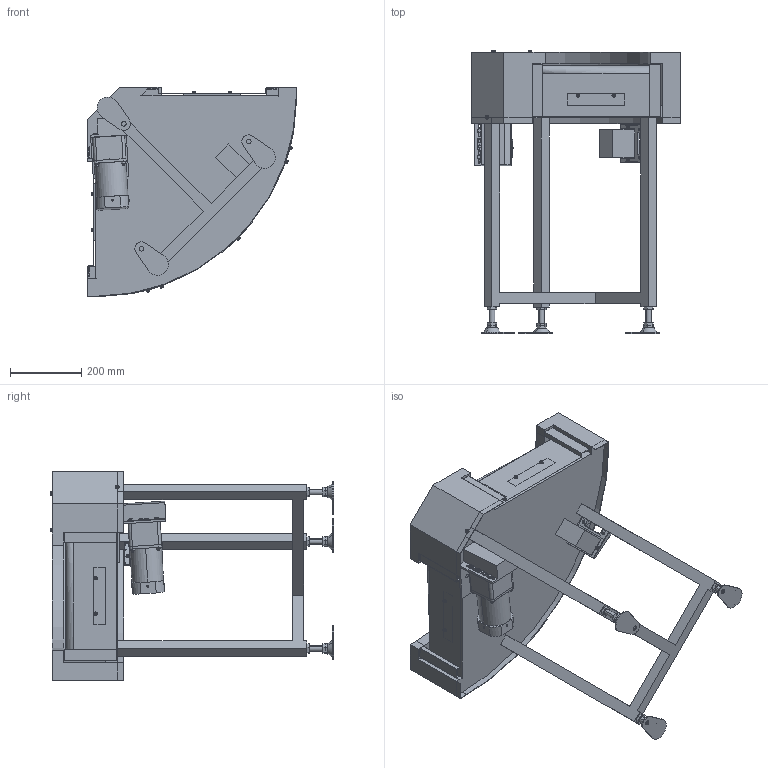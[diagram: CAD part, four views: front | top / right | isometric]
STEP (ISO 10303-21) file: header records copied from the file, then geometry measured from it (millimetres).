
FILE_DESCRIPTION( (''), '2;1');
FILE_NAME ('MBC2H-UD-309-300-90°-L-K-60-O.stp','2025-02-17T11:10:27',(''),(''),'spGate 20.6.2 (****-****-****-****)','','');
FILE_SCHEMA (('AUTOMOTIVE_DESIGN'));
Length unit declared in the file: millimetre
Products named in the file (46): NewModel; MBC2H-UD-309-300-90°-L-K-60-O; TEMP_X_T-prt0; TEMP_X_T-prt1; TEMP_X_T-prt2; TEMP_X_T-prt3; TEMP_X_T-prt4; TEMP_X_T-prt5; TEMP_X_T-prt6; TEMP_X_T-prt7; TEMP_X_T-prt8; TEMP_X_T-prt9; TEMP_X_T-prt10; TEMP_X_T-prt11; TEMP_X_T-prt12; TEMP_X_T-prt13; TEMP_X_T-prt14; TEMP_X_T-prt15; TEMP_X_T-prt16; TEMP_X_T-prt17; TEMP_X_T-prt18; TEMP_X_T-prt19; TEMP_X_T-prt20; TEMP_X_T-prt21; TEMP_X_T-prt22; TEMP_X_T-prt23; TEMP_X_T-prt24; TEMP_X_T-prt25; TEMP_X_T-prt26; TEMP_X_T-prt27; TEMP_X_T-prt28; TEMP_X_T-prt29; TEMP_X_T-prt30; TEMP_X_T-prt31; TEMP_X_T-prt32; TEMP_X_T-prt33; TEMP_X_T-prt34; TEMP_X_T-prt35; TEMP_X_T-prt36; TEMP_X_T-prt37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
Assembly tree (45 placements, depth 3):
  NewModel
    MBC2H-UD-309-300-90°-L-K-60-O
      TEMP_X_T-prt0
      TEMP_X_T-prt1
      TEMP_X_T-prt2
      TEMP_X_T-prt3
      TEMP_X_T-prt4
      TEMP_X_T-prt5
      TEMP_X_T-prt6
      TEMP_X_T-prt7
      TEMP_X_T-prt8
      TEMP_X_T-prt9
      TEMP_X_T-prt10
      TEMP_X_T-prt11
      TEMP_X_T-prt12
      TEMP_X_T-prt13
      TEMP_X_T-prt14
      TEMP_X_T-prt15
      TEMP_X_T-prt16
      TEMP_X_T-prt17
      TEMP_X_T-prt18
      TEMP_X_T-prt19
      TEMP_X_T-prt20
      TEMP_X_T-prt21
      TEMP_X_T-prt22
      TEMP_X_T-prt23
      TEMP_X_T-prt24
      TEMP_X_T-prt25
      TEMP_X_T-prt26
      TEMP_X_T-prt27
      TEMP_X_T-prt28
      TEMP_X_T-prt29
      TEMP_X_T-prt30
      TEMP_X_T-prt31
      TEMP_X_T-prt32
      TEMP_X_T-prt33
      TEMP_X_T-prt34
      TEMP_X_T-prt35
      TEMP_X_T-prt36
      TEMP_X_T-prt37
      TEMP_X_T-prt38
      TEMP_X_T-prt39
      TEMP_X_T-prt40
      TEMP_X_T-prt41
      TEMP_X_T-prt42
      TEMP_X_T-prt43
Bounding box: 588.1 x 794.6 x 588.1 mm (x, y, z)
Volume: 31084703.7 mm3; surface area: 2320060.6 mm2
Topology: 44 solids, 44 shells, 1170 faces, 2665 edges, 1676 vertices
Faces by surface type: plane 606, cylinder 306, bspline 258
Entity records: 60660 total; most frequent: CARTESIAN_POINT 12417, ORIENTED_EDGE 5330, DIRECTION 4917, COLOUR_RGB 3879, PRESENTATION_STYLE_ASSIGNMENT 3879, STYLED_ITEM 3879, EDGE_CURVE 2665, DRAUGHTING_PRE_DEFINED_CURVE_FONT 2665
